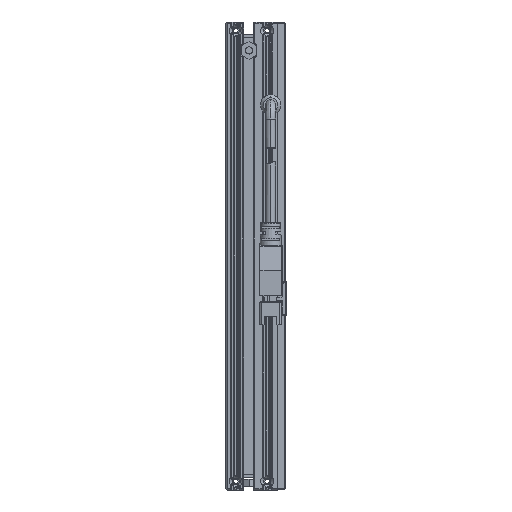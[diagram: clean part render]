
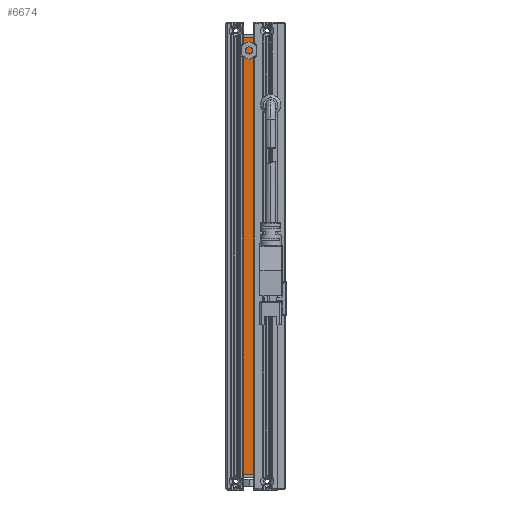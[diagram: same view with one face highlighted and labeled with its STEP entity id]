
A CAD part, left-side view. The second image highlights one B-rep face of the part: STEP entity #6674.
In plain terms, the highlighted planar face has unit normal (1, 0, 0).
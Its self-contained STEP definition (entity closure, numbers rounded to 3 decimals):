
#354 = DIRECTION ( 'NONE',  ( 0., 0., 1. ) ) ;
#863 = EDGE_CURVE ( 'NONE', #18276, #7809, #3100, .T. ) ;
#1121 = CARTESIAN_POINT ( 'NONE',  ( 125.07, 58.548, -126.5 ) ) ;
#1960 = CARTESIAN_POINT ( 'NONE',  ( 125.07, 58.548, -126.5 ) ) ;
#2181 = VECTOR ( 'NONE', #15945, 1000. ) ;
#3100 = LINE ( 'NONE', #26476, #14111 ) ;
#3131 = FACE_OUTER_BOUND ( 'NONE', #26145, .T. ) ;
#3315 = DIRECTION ( 'NONE',  ( 0., 1., 0. ) ) ;
#5951 = VECTOR ( 'NONE', #3315, 1000. ) ;
#6674 = ADVANCED_FACE ( 'NONE', ( #3131 ), #13482, .F. ) ;
#6718 = AXIS2_PLACEMENT_3D ( 'NONE', #15994, #13672, #354 ) ;
#6802 = CARTESIAN_POINT ( 'NONE',  ( 125.07, 58.548, 26.5 ) ) ;
#7156 = VECTOR ( 'NONE', #27032, 1000. ) ;
#7809 = VERTEX_POINT ( 'NONE', #8253 ) ;
#7941 = VERTEX_POINT ( 'NONE', #1960 ) ;
#8253 = CARTESIAN_POINT ( 'NONE',  ( 125.07, 62.148, -126.5 ) ) ;
#9225 = LINE ( 'NONE', #27124, #7156 ) ;
#11196 = ORIENTED_EDGE ( 'NONE', *, *, #17963, .T. ) ;
#13482 = PLANE ( 'NONE',  #6718 ) ;
#13672 = DIRECTION ( 'NONE',  ( -1., 0., 0. ) ) ;
#14111 = VECTOR ( 'NONE', #15521, 1000. ) ;
#15521 = DIRECTION ( 'NONE',  ( 0., 0., -1. ) ) ;
#15945 = DIRECTION ( 'NONE',  ( 0., 0., -1. ) ) ;
#15994 = CARTESIAN_POINT ( 'NONE',  ( 125.07, 58.548, 32. ) ) ;
#17963 = EDGE_CURVE ( 'NONE', #7941, #7809, #22492, .T. ) ;
#18276 = VERTEX_POINT ( 'NONE', #18490 ) ;
#18490 = CARTESIAN_POINT ( 'NONE',  ( 125.07, 62.148, 26.5 ) ) ;
#18526 = EDGE_CURVE ( 'NONE', #21516, #7941, #26564, .T. ) ;
#19888 = EDGE_CURVE ( 'NONE', #21516, #18276, #9225, .T. ) ;
#20987 = ORIENTED_EDGE ( 'NONE', *, *, #863, .F. ) ;
#21516 = VERTEX_POINT ( 'NONE', #6802 ) ;
#22492 = LINE ( 'NONE', #1121, #5951 ) ;
#25121 = ORIENTED_EDGE ( 'NONE', *, *, #19888, .F. ) ;
#26145 = EDGE_LOOP ( 'NONE', ( #25121, #28044, #11196, #20987 ) ) ;
#26476 = CARTESIAN_POINT ( 'NONE',  ( 125.07, 62.148, 32. ) ) ;
#26564 = LINE ( 'NONE', #28187, #2181 ) ;
#27032 = DIRECTION ( 'NONE',  ( 0., 1., 0. ) ) ;
#27124 = CARTESIAN_POINT ( 'NONE',  ( 125.07, 58.548, 26.5 ) ) ;
#28044 = ORIENTED_EDGE ( 'NONE', *, *, #18526, .T. ) ;
#28187 = CARTESIAN_POINT ( 'NONE',  ( 125.07, 58.548, 32. ) ) ;
